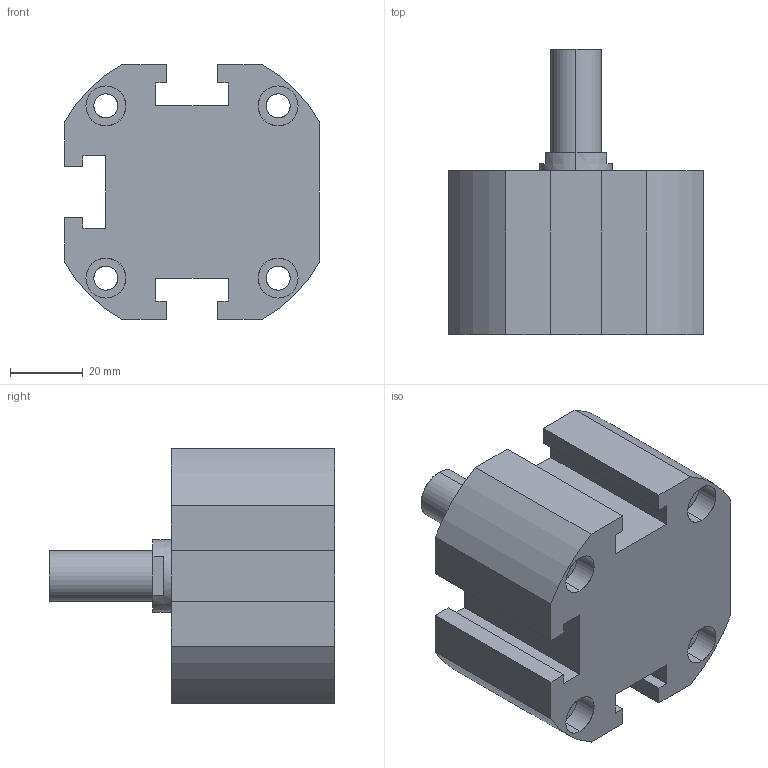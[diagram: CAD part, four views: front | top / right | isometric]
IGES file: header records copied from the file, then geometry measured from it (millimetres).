
Start section: SolidWorks IGES file using analytic representation for surfaces
Global section: file name: C:\Users\Toshiba\Desktop\XG#M2-50-10.IGS; native system: SolidWorks 2014; preprocessor: SolidWorks 2014; author: Toshiba; date: 160524.101845; units: millimetre
Bounding box: 70 x 78.5 x 70 mm (x, y, z)
Surface area: 30439.4 mm2 (no closed solid volume)
Topology: 0 solids, 0 shells, 113 faces, 2066 edges, 2062 vertices
Faces by surface type: revolution 62, bspline 51
